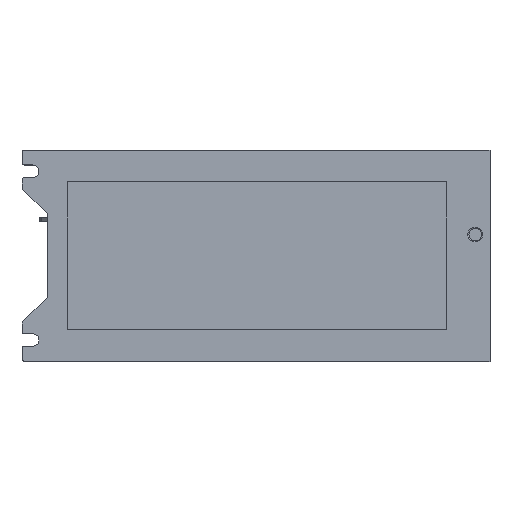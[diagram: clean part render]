
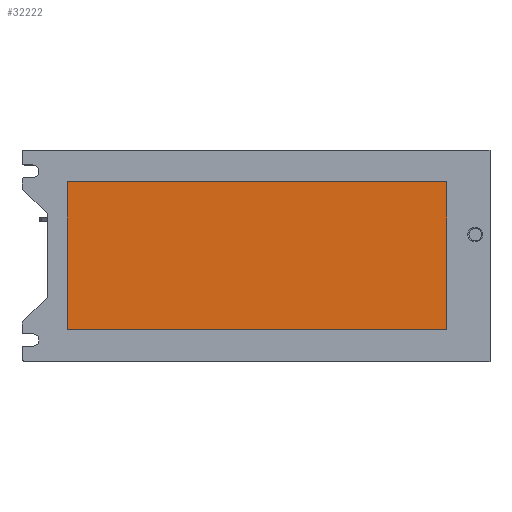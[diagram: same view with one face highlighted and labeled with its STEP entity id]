
A CAD part, top view. The second image highlights one B-rep face of the part: STEP entity #32222.
In plain terms, the highlighted planar face has unit normal (0, 0, 1).
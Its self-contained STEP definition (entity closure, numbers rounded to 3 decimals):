
#1377 = ORIENTED_EDGE ( 'NONE', *, *, #44177, .T. ) ;
#2037 = VECTOR ( 'NONE', #20506, 1000. ) ;
#2590 = FACE_OUTER_BOUND ( 'NONE', #25426, .T. ) ;
#2617 = VERTEX_POINT ( 'NONE', #21426 ) ;
#3296 = ORIENTED_EDGE ( 'NONE', *, *, #36502, .T. ) ;
#4748 = DIRECTION ( 'NONE',  ( 0., -1., 0. ) ) ;
#5697 = ORIENTED_EDGE ( 'NONE', *, *, #40571, .T. ) ;
#8448 = VECTOR ( 'NONE', #23405, 1000. ) ;
#11136 = CARTESIAN_POINT ( 'NONE',  ( -200.5, 85., 106.5 ) ) ;
#12736 = EDGE_CURVE ( 'NONE', #23258, #2617, #33943, .T. ) ;
#12887 = CARTESIAN_POINT ( 'NONE',  ( -200.5, 15., 106.5 ) ) ;
#14245 = CARTESIAN_POINT ( 'NONE',  ( -200.5, 15., 106.5 ) ) ;
#15637 = VECTOR ( 'NONE', #18107, 1000. ) ;
#15662 = VERTEX_POINT ( 'NONE', #30040 ) ;
#15943 = CARTESIAN_POINT ( 'NONE',  ( 0., 0., 106.5 ) ) ;
#16038 = LINE ( 'NONE', #22418, #24080 ) ;
#17186 = VERTEX_POINT ( 'NONE', #12887 ) ;
#18107 = DIRECTION ( 'NONE',  ( -1., 0., 0. ) ) ;
#20506 = DIRECTION ( 'NONE',  ( 1., 0., 0. ) ) ;
#21426 = CARTESIAN_POINT ( 'NONE',  ( -200.5, 85., 106.5 ) ) ;
#22418 = CARTESIAN_POINT ( 'NONE',  ( -200.5, 85., 106.5 ) ) ;
#22435 = CARTESIAN_POINT ( 'NONE',  ( -20.5, 85., 106.5 ) ) ;
#23258 = VERTEX_POINT ( 'NONE', #22435 ) ;
#23405 = DIRECTION ( 'NONE',  ( 0., 1., 0. ) ) ;
#23996 = LINE ( 'NONE', #32435, #8448 ) ;
#24080 = VECTOR ( 'NONE', #4748, 1000. ) ;
#25426 = EDGE_LOOP ( 'NONE', ( #3296, #1377, #5697, #28616 ) ) ;
#28616 = ORIENTED_EDGE ( 'NONE', *, *, #12736, .T. ) ;
#29290 = DIRECTION ( 'NONE',  ( 1., 0., 0. ) ) ;
#29587 = PLANE ( 'NONE',  #30942 ) ;
#29936 = LINE ( 'NONE', #14245, #2037 ) ;
#30040 = CARTESIAN_POINT ( 'NONE',  ( -20.5, 15., 106.5 ) ) ;
#30942 = AXIS2_PLACEMENT_3D ( 'NONE', #15943, #33098, #29290 ) ;
#32222 = ADVANCED_FACE ( 'NONE', ( #2590 ), #29587, .T. ) ;
#32435 = CARTESIAN_POINT ( 'NONE',  ( -20.5, 85., 106.5 ) ) ;
#33098 = DIRECTION ( 'NONE',  ( 0., 0., 1. ) ) ;
#33943 = LINE ( 'NONE', #11136, #15637 ) ;
#36502 = EDGE_CURVE ( 'NONE', #2617, #17186, #16038, .T. ) ;
#40571 = EDGE_CURVE ( 'NONE', #15662, #23258, #23996, .T. ) ;
#44177 = EDGE_CURVE ( 'NONE', #17186, #15662, #29936, .T. ) ;
